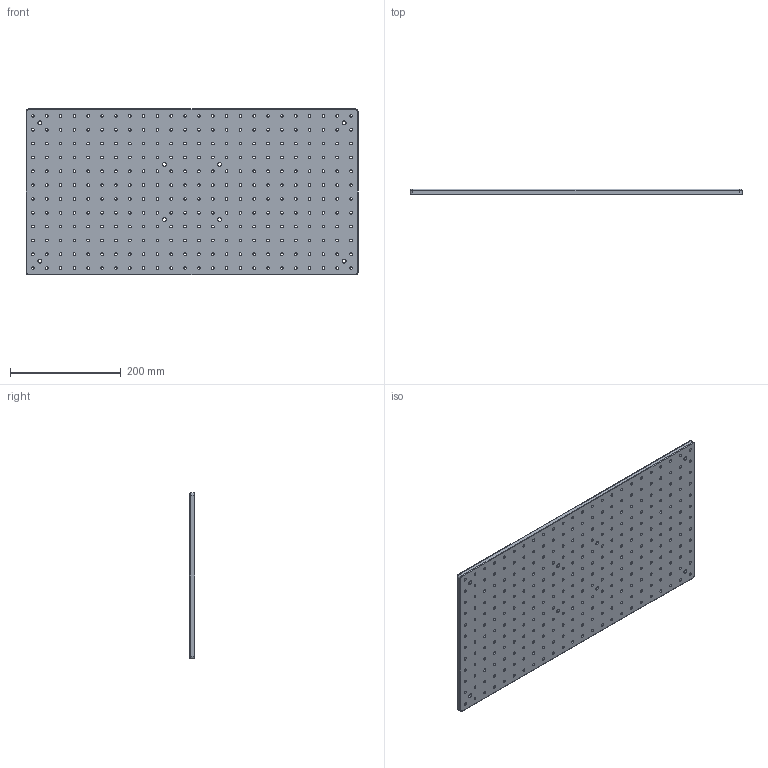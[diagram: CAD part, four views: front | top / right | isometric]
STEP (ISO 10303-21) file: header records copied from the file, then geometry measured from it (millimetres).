
FILE_DESCRIPTION (( 'STEP AP203' ), '1' );
FILE_NAME ('M-SAB-3060-10.step', '2017-01-10T01:16:04', ( '¦K¬P' ), ( '' ), 'SwSTEP 2.0', 'SolidWorks 2012', '' );
FILE_SCHEMA (( 'CONFIG_CONTROL_DESIGN' ));
Length unit declared in the file: millimetre
Products named in the file (1): M-SAB-3060-10
Bounding box: 600 x 10 x 300 mm (x, y, z)
Volume: 1733426.7 mm3; surface area: 410507.4 mm2
Topology: 1 solids, 1 shells, 338 faces, 968 edges, 640 vertices
Faces by surface type: cylinder 316, plane 14, torus 8
Full cylindrical faces by diameter (mm): 5 x288, 7 x8, 11 x8
Entity records: 11165 total; most frequent: DIRECTION 1982, CARTESIAN_POINT 1643, ORIENTED_EDGE 1328, EDGE_LOOP 1242, AXIS2_PLACEMENT_3D 979, EDGE_CURVE 664, FACE_OUTER_BOUND 642, VERTEX_POINT 640
